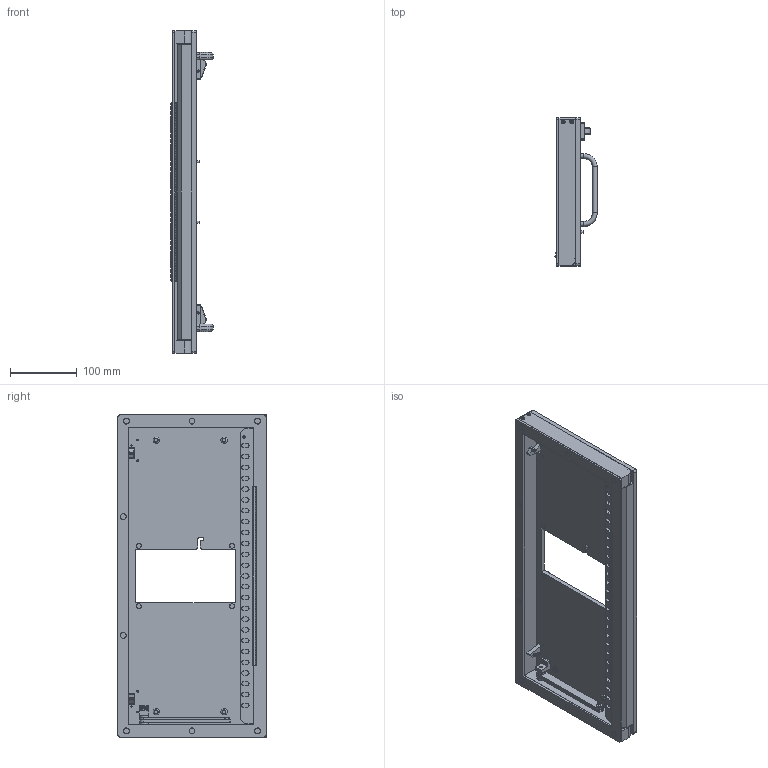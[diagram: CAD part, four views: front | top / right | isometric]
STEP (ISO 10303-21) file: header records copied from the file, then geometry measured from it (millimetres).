
FILE_DESCRIPTION((''),'2;1');
FILE_NAME('C:\old_Drawings\shrinkwrapped website .stp files\561355 closed-STP.stp','2011-05-23T13:23:22',('GaryRobinson'),(''),'Autodesk Inventor 2011','Autodesk Inventor 2011','');
FILE_SCHEMA(('CONFIG_CONTROL_DESIGN'));
Length unit declared in the file: inch
Products named in the file (1): 561355 closed-STP
Bounding box: 63.31 x 221.46 x 482.6 mm (x, y, z)
Surface area: 450497.5 mm2 (no closed solid volume)
Topology: 0 solids, 72 shells, 1053 faces, 2521 edges, 1639 vertices
Faces by surface type: plane 456, cylinder 439, cone 134, torus 16, bspline 8
Full cylindrical faces by diameter (mm): 0.005 x2, 0.025 x2, 1.588 x3, 1.905 x2, 2.159 x10, 2.845 x8, 3.175 x14, 3.454 x2, 3.505 x27, 3.81 x18, 3.962 x4, 4.166 x10, 4.496 x8, 4.648 x2, 4.763 x4, 4.826 x6, 5.207 x2, 5.74 x4, 5.953 x4, 6.325 x1, 6.337 x2, 6.426 x1, 8.687 x1, 8.731 x7, 9.473 x4, 9.525 x2, 9.931 x2, 12.7 x8, 13.097 x2, 19.05 x2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
Entity records: 35343 total; most frequent: CARTESIAN_POINT 10303, DIRECTION 5156, ORIENTED_EDGE 4270, EDGE_CURVE 2135, AXIS2_PLACEMENT_3D 2078, EDGE_LOOP 1574, VERTEX_POINT 1555, FACE_OUTER_BOUND 1053
